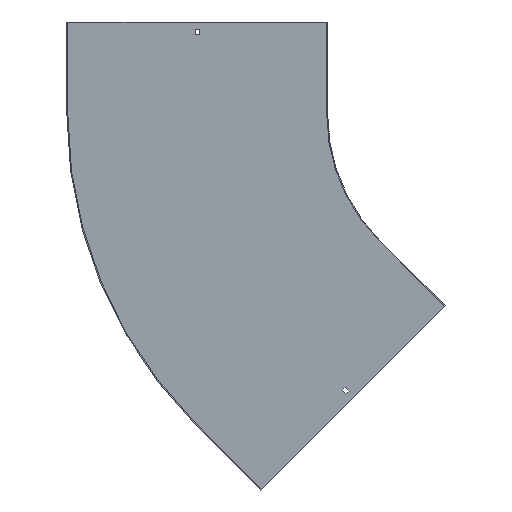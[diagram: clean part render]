
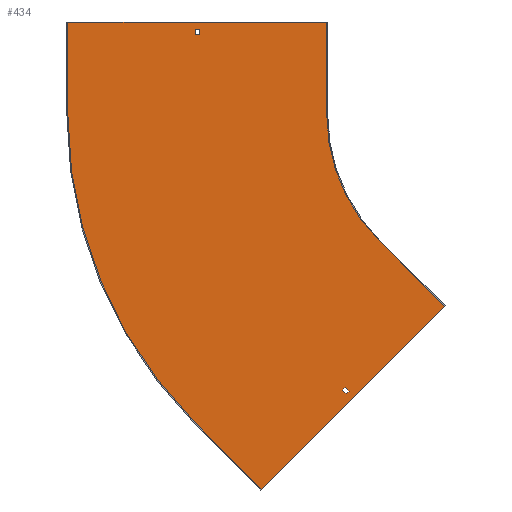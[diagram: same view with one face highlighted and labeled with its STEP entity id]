
A CAD part, front view. The second image highlights one B-rep face of the part: STEP entity #434.
In plain terms, the highlighted planar face has unit normal (0, -1, 0).
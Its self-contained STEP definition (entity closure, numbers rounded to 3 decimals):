
#21 = VERTEX_POINT ( 'NONE', #323 ) ;
#22 = ORIENTED_EDGE ( 'NONE', *, *, #777, .F. ) ;
#25 = VERTEX_POINT ( 'NONE', #603 ) ;
#41 = DIRECTION ( 'NONE',  ( 0., 0., 1. ) ) ;
#47 = LINE ( 'NONE', #852, #414 ) ;
#50 = VERTEX_POINT ( 'NONE', #334 ) ;
#54 = CARTESIAN_POINT ( 'NONE',  ( -395.98, -1.5, -608.112 ) ) ;
#58 = LINE ( 'NONE', #320, #752 ) ;
#59 = DIRECTION ( 'NONE',  ( -0.707, 0., -0.707 ) ) ;
#63 = EDGE_LOOP ( 'NONE', ( #813, #179, #410, #67 ) ) ;
#65 = CARTESIAN_POINT ( 'NONE',  ( -97.934, -1.5, -310.066 ) ) ;
#67 = ORIENTED_EDGE ( 'NONE', *, *, #858, .F. ) ;
#70 = EDGE_CURVE ( 'NONE', #147, #424, #403, .T. ) ;
#71 = VERTEX_POINT ( 'NONE', #263 ) ;
#75 = VECTOR ( 'NONE', #666, 1000. ) ;
#88 = ORIENTED_EDGE ( 'NONE', *, *, #286, .F. ) ;
#94 = PLANE ( 'NONE',  #224 ) ;
#97 = VERTEX_POINT ( 'NONE', #298 ) ;
#98 = FACE_OUTER_BOUND ( 'NONE', #515, .T. ) ;
#102 = DIRECTION ( 'NONE',  ( 1., 0., 0. ) ) ;
#120 = LINE ( 'NONE', #180, #764 ) ;
#121 = LINE ( 'NONE', #400, #680 ) ;
#129 = ORIENTED_EDGE ( 'NONE', *, *, #539, .F. ) ;
#136 = EDGE_CURVE ( 'NONE', #784, #214, #366, .T. ) ;
#143 = AXIS2_PLACEMENT_3D ( 'NONE', #252, #662, #532 ) ;
#147 = VERTEX_POINT ( 'NONE', #484 ) ;
#161 = CARTESIAN_POINT ( 'NONE',  ( -264.635, -1.5, -447.068 ) ) ;
#166 = CIRCLE ( 'NONE', #284, 710. ) ;
#179 = ORIENTED_EDGE ( 'NONE', *, *, #411, .F. ) ;
#180 = CARTESIAN_POINT ( 'NONE',  ( -711.5, -1.5, 150. ) ) ;
#182 = CARTESIAN_POINT ( 'NONE',  ( -710., -1.5, 0. ) ) ;
#185 = LINE ( 'NONE', #54, #501 ) ;
#193 = CARTESIAN_POINT ( 'NONE',  ( -205.061, -1.5, -205.061 ) ) ;
#206 = VERTEX_POINT ( 'NONE', #606 ) ;
#208 = EDGE_CURVE ( 'NONE', #206, #21, #863, .T. ) ;
#214 = VERTEX_POINT ( 'NONE', #841 ) ;
#224 = AXIS2_PLACEMENT_3D ( 'NONE', #698, #828, #573 ) ;
#252 = CARTESIAN_POINT ( 'NONE',  ( 0., -1.5, 0. ) ) ;
#253 = VECTOR ( 'NONE', #386, 1000. ) ;
#263 = CARTESIAN_POINT ( 'NONE',  ( -503.25, -1.5, 129. ) ) ;
#277 = EDGE_CURVE ( 'NONE', #71, #801, #121, .T. ) ;
#280 = EDGE_CURVE ( 'NONE', #801, #50, #47, .T. ) ;
#284 = AXIS2_PLACEMENT_3D ( 'NONE', #475, #807, #743 ) ;
#286 = EDGE_CURVE ( 'NONE', #21, #97, #792, .T. ) ;
#298 = CARTESIAN_POINT ( 'NONE',  ( -205.061, -1.5, -205.061 ) ) ;
#301 = VERTEX_POINT ( 'NONE', #182 ) ;
#307 = EDGE_CURVE ( 'NONE', #609, #568, #372, .T. ) ;
#315 = LINE ( 'NONE', #193, #75 ) ;
#316 = DIRECTION ( 'NONE',  ( -0.707, 0., 0.707 ) ) ;
#320 = CARTESIAN_POINT ( 'NONE',  ( 0., -1.5, 129. ) ) ;
#323 = CARTESIAN_POINT ( 'NONE',  ( -290., -1.5, 0. ) ) ;
#327 = CARTESIAN_POINT ( 'NONE',  ( -351.255, -1.5, -351.255 ) ) ;
#328 = EDGE_CURVE ( 'NONE', #25, #71, #58, .T. ) ;
#330 = DIRECTION ( 'NONE',  ( -0.707, 0., -0.707 ) ) ;
#333 = EDGE_CURVE ( 'NONE', #50, #25, #857, .T. ) ;
#334 = CARTESIAN_POINT ( 'NONE',  ( -496.75, -1.5, 138. ) ) ;
#346 = ORIENTED_EDGE ( 'NONE', *, *, #280, .T. ) ;
#349 = CARTESIAN_POINT ( 'NONE',  ( -502.046, -1.5, -502.046 ) ) ;
#353 = ORIENTED_EDGE ( 'NONE', *, *, #328, .T. ) ;
#355 = CARTESIAN_POINT ( 'NONE',  ( -355.851, -1.5, -355.851 ) ) ;
#359 = VECTOR ( 'NONE', #862, 1000. ) ;
#364 = ORIENTED_EDGE ( 'NONE', *, *, #682, .F. ) ;
#366 = LINE ( 'NONE', #355, #473 ) ;
#370 = CARTESIAN_POINT ( 'NONE',  ( -253.675, -1.5, -448.836 ) ) ;
#372 = LINE ( 'NONE', #327, #253 ) ;
#386 = DIRECTION ( 'NONE',  ( -0.707, 0., 0.707 ) ) ;
#400 = CARTESIAN_POINT ( 'NONE',  ( -503.25, -1.5, 0. ) ) ;
#402 = VECTOR ( 'NONE', #41, 1000. ) ;
#403 = LINE ( 'NONE', #65, #838 ) ;
#410 = ORIENTED_EDGE ( 'NONE', *, *, #136, .F. ) ;
#411 = EDGE_CURVE ( 'NONE', #214, #609, #809, .T. ) ;
#414 = VECTOR ( 'NONE', #797, 1000. ) ;
#424 = VERTEX_POINT ( 'NONE', #633 ) ;
#425 = CARTESIAN_POINT ( 'NONE',  ( -710., -1.5, 150. ) ) ;
#434 = ADVANCED_FACE ( 'NONE', ( #562, #98, #706 ), #94, .T. ) ;
#456 = VERTEX_POINT ( 'NONE', #425 ) ;
#469 = ORIENTED_EDGE ( 'NONE', *, *, #595, .F. ) ;
#473 = VECTOR ( 'NONE', #699, 1000. ) ;
#474 = VERTEX_POINT ( 'NONE', #349 ) ;
#475 = CARTESIAN_POINT ( 'NONE',  ( 0., -1.5, 0. ) ) ;
#484 = CARTESIAN_POINT ( 'NONE',  ( -98.995, -1.5, -311.127 ) ) ;
#501 = VECTOR ( 'NONE', #316, 1000. ) ;
#515 = EDGE_LOOP ( 'NONE', ( #469, #854, #364, #22, #738, #129, #88, #612 ) ) ;
#518 = CARTESIAN_POINT ( 'NONE',  ( -710., -1.5, 0. ) ) ;
#529 = LINE ( 'NONE', #580, #684 ) ;
#532 = DIRECTION ( 'NONE',  ( 0., 0., -1. ) ) ;
#539 = EDGE_CURVE ( 'NONE', #97, #147, #315, .T. ) ;
#543 = LINE ( 'NONE', #518, #402 ) ;
#551 = ORIENTED_EDGE ( 'NONE', *, *, #333, .T. ) ;
#555 = DIRECTION ( 'NONE',  ( 0.707, 0., 0.707 ) ) ;
#562 = FACE_BOUND ( 'NONE', #63, .T. ) ;
#568 = VERTEX_POINT ( 'NONE', #779 ) ;
#573 = DIRECTION ( 'NONE',  ( 0., 0., -1. ) ) ;
#580 = CARTESIAN_POINT ( 'NONE',  ( 91.217, -1.5, -91.217 ) ) ;
#583 = VECTOR ( 'NONE', #586, 1000. ) ;
#586 = DIRECTION ( 'NONE',  ( 0., 0., -1. ) ) ;
#591 = DIRECTION ( 'NONE',  ( 0., 0., 1. ) ) ;
#595 = EDGE_CURVE ( 'NONE', #456, #206, #120, .T. ) ;
#601 = DIRECTION ( 'NONE',  ( -1., 0., 0. ) ) ;
#603 = CARTESIAN_POINT ( 'NONE',  ( -496.75, -1.5, 129. ) ) ;
#605 = CARTESIAN_POINT ( 'NONE',  ( -496.75, -1.5, 0. ) ) ;
#606 = CARTESIAN_POINT ( 'NONE',  ( -290., -1.5, 150. ) ) ;
#609 = VERTEX_POINT ( 'NONE', #370 ) ;
#612 = ORIENTED_EDGE ( 'NONE', *, *, #208, .F. ) ;
#633 = CARTESIAN_POINT ( 'NONE',  ( -395.98, -1.5, -608.112 ) ) ;
#648 = VECTOR ( 'NONE', #555, 1000. ) ;
#662 = DIRECTION ( 'NONE',  ( 0., -1., 0. ) ) ;
#666 = DIRECTION ( 'NONE',  ( 0.707, 0., -0.707 ) ) ;
#680 = VECTOR ( 'NONE', #591, 1000. ) ;
#682 = EDGE_CURVE ( 'NONE', #474, #301, #166, .T. ) ;
#684 = VECTOR ( 'NONE', #59, 1000. ) ;
#690 = CARTESIAN_POINT ( 'NONE',  ( 97.581, -1.5, -97.581 ) ) ;
#696 = EDGE_CURVE ( 'NONE', #301, #456, #543, .T. ) ;
#698 = CARTESIAN_POINT ( 'NONE',  ( 0., -1.5, 0. ) ) ;
#699 = DIRECTION ( 'NONE',  ( 0.707, 0., -0.707 ) ) ;
#706 = FACE_BOUND ( 'NONE', #780, .T. ) ;
#738 = ORIENTED_EDGE ( 'NONE', *, *, #70, .F. ) ;
#743 = DIRECTION ( 'NONE',  ( 0., 0., -1. ) ) ;
#752 = VECTOR ( 'NONE', #601, 1000. ) ;
#764 = VECTOR ( 'NONE', #102, 1000. ) ;
#777 = EDGE_CURVE ( 'NONE', #424, #474, #185, .T. ) ;
#779 = CARTESIAN_POINT ( 'NONE',  ( -260.039, -1.5, -442.472 ) ) ;
#780 = EDGE_LOOP ( 'NONE', ( #346, #551, #353, #827 ) ) ;
#784 = VERTEX_POINT ( 'NONE', #161 ) ;
#792 = CIRCLE ( 'NONE', #143, 290. ) ;
#794 = CARTESIAN_POINT ( 'NONE',  ( -503.25, -1.5, 138. ) ) ;
#797 = DIRECTION ( 'NONE',  ( 1., 0., 0. ) ) ;
#801 = VERTEX_POINT ( 'NONE', #794 ) ;
#807 = DIRECTION ( 'NONE',  ( 0., 1., 0. ) ) ;
#809 = LINE ( 'NONE', #690, #648 ) ;
#813 = ORIENTED_EDGE ( 'NONE', *, *, #307, .F. ) ;
#827 = ORIENTED_EDGE ( 'NONE', *, *, #277, .T. ) ;
#828 = DIRECTION ( 'NONE',  ( 0., -1., 0. ) ) ;
#838 = VECTOR ( 'NONE', #330, 1000. ) ;
#841 = CARTESIAN_POINT ( 'NONE',  ( -258.271, -1.5, -453.432 ) ) ;
#847 = CARTESIAN_POINT ( 'NONE',  ( -290., -1.5, 150. ) ) ;
#852 = CARTESIAN_POINT ( 'NONE',  ( 0., -1.5, 138. ) ) ;
#854 = ORIENTED_EDGE ( 'NONE', *, *, #696, .F. ) ;
#857 = LINE ( 'NONE', #605, #359 ) ;
#858 = EDGE_CURVE ( 'NONE', #568, #784, #529, .T. ) ;
#862 = DIRECTION ( 'NONE',  ( 0., 0., -1. ) ) ;
#863 = LINE ( 'NONE', #847, #583 ) ;
